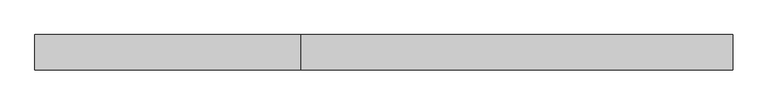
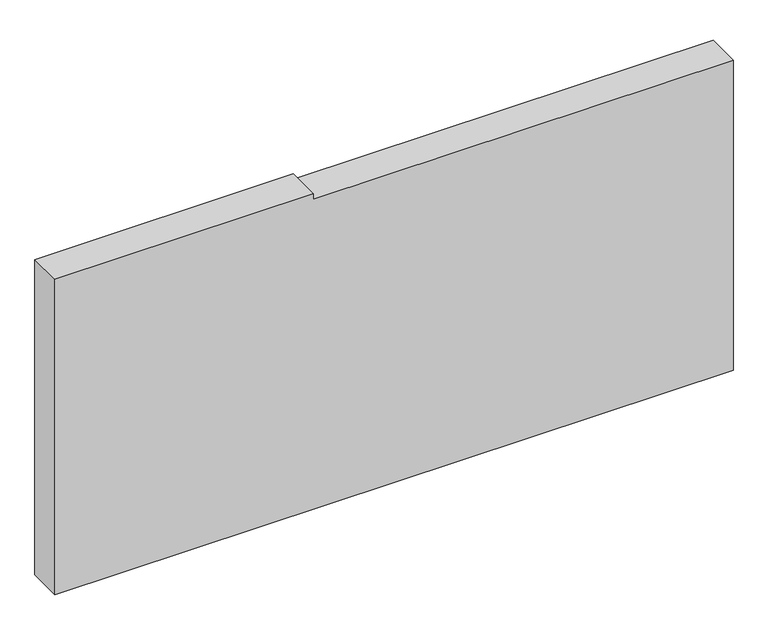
"""IFC4 building model written with IfcOpenShell, lengths in millimetres: plate geometry, Системная панель : Алюкобонд серый."""

from ifc_helpers import new_model, si_unit, frame, origin, place, context, project, spatial, polyline, outline, extrude, source, transform, mapped, element, save


def plate_c713ba26(model_context):
    return source(origin(), model_context, "Body", "SweptSolid", [
        extrude(outline(polyline([(0.0, -590.0), (0.0, 590.0), (570.0, 590.0), (570.0, -140.4633312), (580.0, -140.4633312), (580.0, -590.0), (0.0, -590.0)])), frame((0.0, -10.5, 0.0), z_axis=(0.0, 1.0, 0.0), x_axis=(0.0, 0.0, 1.0)), (0.0, 0.0, 1.0), 60.0),
    ])


if __name__ == "__main__":
    model = new_model("IFC4")
    model_context = context("Model", 3, world=origin())
    ifc_project = project(units=[si_unit("LENGTHUNIT", "METRE", prefix="MILLI")], contexts=[model_context])
    site = spatial("IfcSite", under=ifc_project)
    building = spatial("IfcBuilding", under=site)
    placement = place(None, origin())
    plate_shape = plate_c713ba26(model_context)
    element("IfcPlate", 1, ObjectType="Системная панель : Алюкобонд серый", at=placement, inside=building, context=model_context, shape_type="MappedRepresentation", body=[
        mapped(plate_shape, transform((0.0, 0.0, 0.0), x_axis=(1.0, 0.0, 0.0), y_axis=(0.0, 1.0, 0.0), z_axis=(0.0, 0.0, 1.0))),
    ])
    save(model, "model.ifc")
